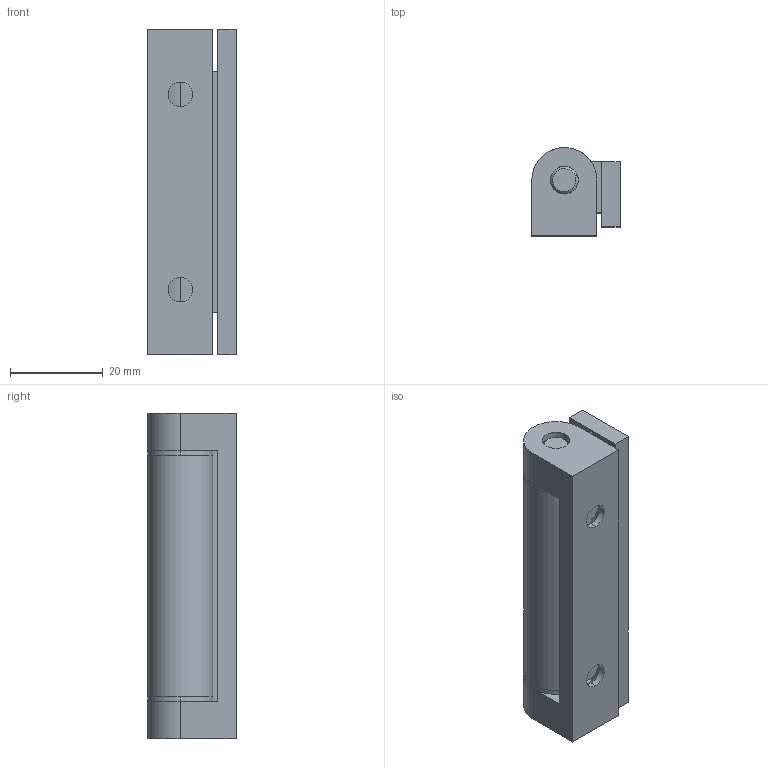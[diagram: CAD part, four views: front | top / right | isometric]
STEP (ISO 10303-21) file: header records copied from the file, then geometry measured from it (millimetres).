
FILE_DESCRIPTION (( 'STEP AP203' ), '1' );
FILE_NAME ('SK2-005.STEP', '2018-11-01T05:16:44', ( 'admin' ), ( 'Microsoft' ), 'SwSTEP 2.0', 'SolidWorks 2015', '' );
FILE_SCHEMA (( 'CONFIG_CONTROL_DESIGN' ));
Length unit declared in the file: millimetre
Products named in the file (5): SK2-005-F2; SK2-005-F3; SK2-005-F4; SK2-005; SK2-005-F1
Assembly tree (5 placements, depth 2):
  SK2-005
    SK2-005-F1
    SK2-005-F2
    SK2-005-F3  x2
    SK2-005-F4
Bounding box: 19 x 19 x 70 mm (x, y, z)
Volume: 18914.4 mm3; surface area: 12669.9 mm2
Topology: 5 solids, 5 shells, 212 faces, 467 edges, 268 vertices
Faces by surface type: cylinder 114, plane 86, cone 12
Entity records: 6504 total; most frequent: CARTESIAN_POINT 1489, DIRECTION 995, ORIENTED_EDGE 898, EDGE_CURVE 449, AXIS2_PLACEMENT_3D 418, VERTEX_POINT 256, EDGE_LOOP 221, CIRCLE 207
